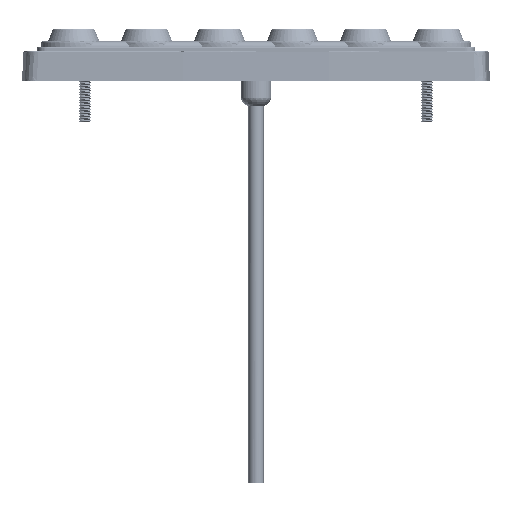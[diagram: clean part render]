
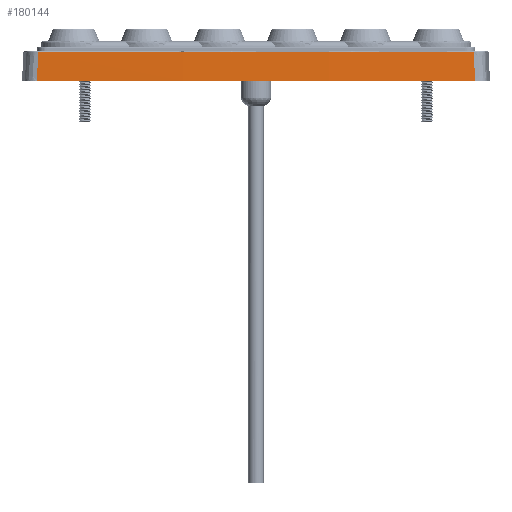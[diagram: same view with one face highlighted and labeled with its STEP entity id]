
A CAD part, front view. The second image highlights one B-rep face of the part: STEP entity #180144.
In plain terms, the highlighted face is a revolution surface.
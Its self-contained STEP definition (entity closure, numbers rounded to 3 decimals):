
#180120=AXIS2_PLACEMENT_3D('Circle Axis2P3D',#180118,#180119,$) ;
#180135=AXIS2_PLACEMENT_3D('Circle Axis2P3D',#180133,#180134,$) ;
#180102=CARTESIAN_POINT('Control Point',(87.075,-36.625,11.337)) ;
#180103=CARTESIAN_POINT('Control Point',(87.103,-37.218,0.)) ;
#180104=CARTESIAN_POINT('Axis1P Location',(0.,1760.673,11.337)) ;
#180109=CARTESIAN_POINT('Control Point',(86.547,-36.65,11.337)) ;
#180110=CARTESIAN_POINT('Control Point',(86.733,-36.84,7.558)) ;
#180111=CARTESIAN_POINT('Control Point',(86.918,-37.029,3.779)) ;
#180112=CARTESIAN_POINT('Control Point',(87.103,-37.218,0.)) ;
#180113=CARTESIAN_POINT('Vertex',(86.547,-36.65,11.337)) ;
#180115=CARTESIAN_POINT('Vertex',(87.103,-37.218,0.)) ;
#180118=CARTESIAN_POINT('Axis2P3D Location',(0.,1760.673,0.)) ;
#180122=CARTESIAN_POINT('Vertex',(-87.103,-37.218,0.)) ;
#180126=CARTESIAN_POINT('Control Point',(-87.103,-37.218,0.)) ;
#180127=CARTESIAN_POINT('Control Point',(-86.918,-37.029,3.779)) ;
#180128=CARTESIAN_POINT('Control Point',(-86.733,-36.84,7.558)) ;
#180129=CARTESIAN_POINT('Control Point',(-86.547,-36.65,11.337)) ;
#180130=CARTESIAN_POINT('Vertex',(-86.547,-36.65,11.337)) ;
#180133=CARTESIAN_POINT('Axis2P3D Location',(0.,1760.673,11.337)) ;
#180105=DIRECTION('Axis1P Direction',(0.,0.,-1.)) ;
#180119=DIRECTION('Axis2P3D Direction',(0.,0.,-1.)) ;
#180134=DIRECTION('Axis2P3D Direction',(0.,0.,-1.)) ;
#180106=AXIS1_PLACEMENT('Revolution Surface Axis1P',#180104,#180105) ;
#180139=ORIENTED_EDGE('',*,*,#180117,.T.) ;
#180140=ORIENTED_EDGE('',*,*,#180124,.T.) ;
#180141=ORIENTED_EDGE('',*,*,#180132,.T.) ;
#180142=ORIENTED_EDGE('',*,*,#180137,.T.) ;
#180144=ADVANCED_FACE('Imported1',(#180143),#180107,.F.) ;
#180101=B_SPLINE_CURVE_WITH_KNOTS('',1,(#180102,#180103),.UNSPECIFIED.,.F.,.U.,(2,2),(-5.676,5.676),.UNSPECIFIED.) ;
#180108=B_SPLINE_CURVE_WITH_KNOTS('',3,(#180109,#180110,#180111,#180112),.UNSPECIFIED.,.F.,.U.,(4,4),(0.,16.072),.UNSPECIFIED.) ;
#180125=B_SPLINE_CURVE_WITH_KNOTS('',3,(#180126,#180127,#180128,#180129),.UNSPECIFIED.,.F.,.U.,(4,4),(0.,16.072),.UNSPECIFIED.) ;
#180121=CIRCLE('generated circle',#180120,1800.) ;
#180136=CIRCLE('generated circle',#180135,1799.406) ;
#180117=EDGE_CURVE('',#180114,#180116,#180108,.T.) ;
#180124=EDGE_CURVE('',#180116,#180123,#180121,.T.) ;
#180132=EDGE_CURVE('',#180123,#180131,#180125,.T.) ;
#180137=EDGE_CURVE('',#180131,#180114,#180136,.F.) ;
#180138=EDGE_LOOP('',(#180139,#180140,#180141,#180142)) ;
#180143=FACE_OUTER_BOUND('',#180138,.T.) ;
#180107=SURFACE_OF_REVOLUTION('Surface of Revolution',#180101,#180106) ;
#180114=VERTEX_POINT('',#180113) ;
#180116=VERTEX_POINT('',#180115) ;
#180123=VERTEX_POINT('',#180122) ;
#180131=VERTEX_POINT('',#180130) ;
